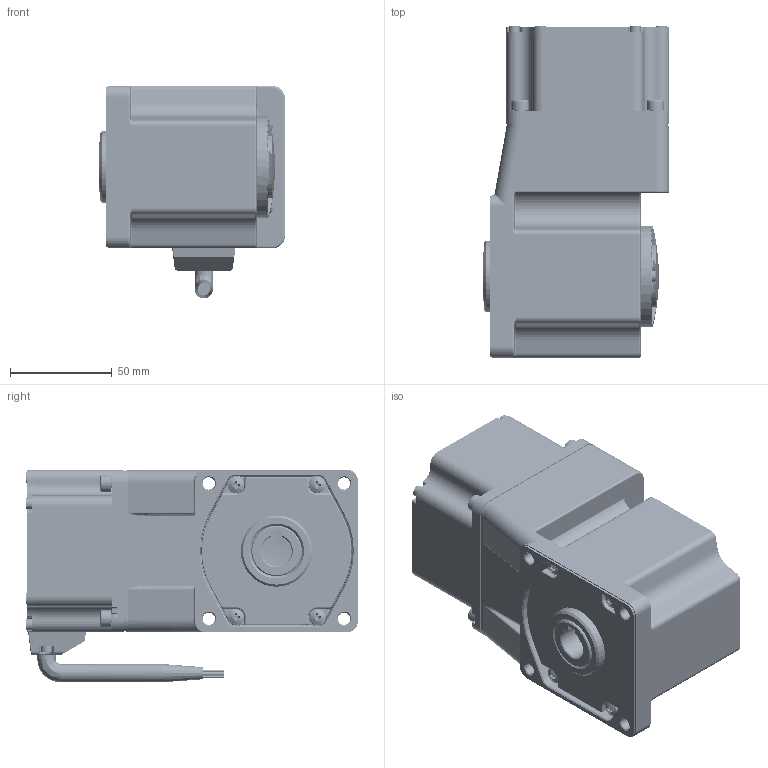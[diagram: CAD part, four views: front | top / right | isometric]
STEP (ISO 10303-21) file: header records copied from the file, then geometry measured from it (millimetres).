
FILE_DESCRIPTION (( 'STEP AP203' ), '1' );
FILE_NAME ('Z4BLDRC.STEP', '2021-07-28T07:34:18', ( 'china' ), ( 'china' ), 'SwSTEP 2.0', 'SolidWorks 2019', '' );
FILE_SCHEMA (( 'CONFIG_CONTROL_DESIGN' ));
Length unit declared in the file: millimetre
Products named in the file (20): ASM0001_ASM_ASM; PRT0004; PRT0013; ZHENGJI_ASM_ASM; PRT0005; M3; PRT0001; PRT0006; 80-536; PRT0014; PRT0012; PRT0007; 80-535; M5X20-S; ASM0003_ASM; 80-534; 4IK25GN-C-4GN3-180RC_ASM_1_ASM; Z4BLDRC; 80-533; PRT0003
Assembly tree (28 placements, depth 5):
  Z4BLDRC
    4IK25GN-C-4GN3-180RC_ASM_1_ASM
      ZHENGJI_ASM_ASM
        ASM0001_ASM_ASM
          80-536
          80-535
          80-534
          80-533
      PRT0001  x2
      PRT0012
      PRT0013
      M3
      PRT0014
      M5X20-S  x4
    ASM0003_ASM
      PRT0003
      PRT0004
      PRT0005  x6
      PRT0006
      PRT0007
Bounding box: 91.5 x 163 x 104.5 mm (x, y, z)
Volume: 425136.1 mm3; surface area: 184522.6 mm2
Topology: 23 solids, 24 shells, 4093 faces, 9328 edges, 5246 vertices
Faces by surface type: cone 1453, cylinder 1261, bspline 733, plane 630, torus 16
Entity records: 131158 total; most frequent: CARTESIAN_POINT 64586, ORIENTED_EDGE 14050, DIRECTION 12623, EDGE_CURVE 7038, AXIS2_PLACEMENT_3D 5024, VERTEX_POINT 4078, EDGE_LOOP 3214, ADVANCED_FACE 3074
